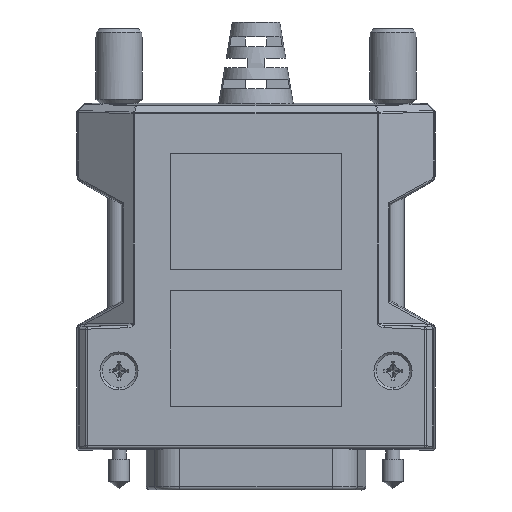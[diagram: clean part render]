
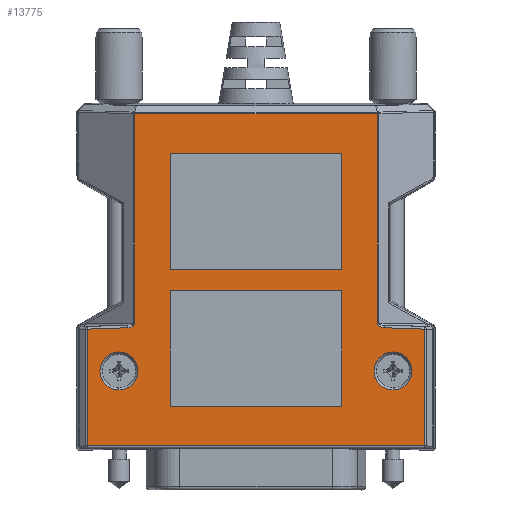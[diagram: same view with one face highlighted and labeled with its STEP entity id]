
A CAD part, front view. The second image highlights one B-rep face of the part: STEP entity #13775.
In plain terms, the highlighted planar face has unit normal (0, -1, 0).
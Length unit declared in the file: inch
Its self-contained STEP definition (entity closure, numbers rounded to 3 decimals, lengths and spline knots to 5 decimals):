
#5413=CARTESIAN_POINT('',(0.9215,-0.094,0.4189));
#5414=DIRECTION('',(0.,1.,0.));
#5415=DIRECTION('',(0.,0.,1.));
#5416=AXIS2_PLACEMENT_3D('',#5413,#5414,#5415);
#5418=CARTESIAN_POINT('',(0.9215,-0.094,0.4189));
#5419=DIRECTION('',(0.,1.,0.));
#5420=DIRECTION('',(0.,0.,-1.));
#5421=AXIS2_PLACEMENT_3D('',#5418,#5419,#5420);
#5423=CARTESIAN_POINT('',(-0.9215,-0.094,0.4189));
#5424=DIRECTION('',(0.,1.,0.));
#5425=DIRECTION('',(0.,0.,-1.));
#5426=AXIS2_PLACEMENT_3D('',#5423,#5424,#5425);
#5428=CARTESIAN_POINT('',(-0.9215,-0.094,0.4189));
#5429=DIRECTION('',(0.,1.,0.));
#5430=DIRECTION('',(0.,0.,1.));
#5431=AXIS2_PLACEMENT_3D('',#5428,#5429,#5430);
#5433=DIRECTION('',(0.,0.,1.));
#5434=VECTOR('',#5433,0.78017);
#5435=CARTESIAN_POINT('',(0.57759,-0.094,0.17981));
#5436=LINE('',#5435,#5434);
#5437=DIRECTION('',(-1.,0.,0.));
#5438=VECTOR('',#5437,1.15517);
#5439=CARTESIAN_POINT('',(0.57759,-0.094,0.95998));
#5440=LINE('',#5439,#5438);
#5441=DIRECTION('',(0.,0.,-1.));
#5442=VECTOR('',#5441,0.78017);
#5443=CARTESIAN_POINT('',(-0.57759,-0.094,0.95998));
#5444=LINE('',#5443,#5442);
#5445=DIRECTION('',(1.,0.,0.));
#5446=VECTOR('',#5445,1.15517);
#5447=CARTESIAN_POINT('',(-0.57759,-0.094,0.17981));
#5448=LINE('',#5447,#5446);
#5449=DIRECTION('',(0.,0.,1.));
#5450=VECTOR('',#5449,0.78017);
#5451=CARTESIAN_POINT('',(0.57759,-0.094,1.10381));
#5452=LINE('',#5451,#5450);
#5453=DIRECTION('',(-1.,0.,0.));
#5454=VECTOR('',#5453,1.15517);
#5455=CARTESIAN_POINT('',(0.57759,-0.094,1.88398));
#5456=LINE('',#5455,#5454);
#5457=DIRECTION('',(0.,0.,-1.));
#5458=VECTOR('',#5457,0.78017);
#5459=CARTESIAN_POINT('',(-0.57759,-0.094,1.88398));
#5460=LINE('',#5459,#5458);
#5461=DIRECTION('',(1.,0.,0.));
#5462=VECTOR('',#5461,1.15517);
#5463=CARTESIAN_POINT('',(-0.57759,-0.094,1.10381));
#5464=LINE('',#5463,#5462);
#5465=CARTESIAN_POINT('',(0.81765,-0.094,
0.74008));
#5466=CARTESIAN_POINT('',(0.81764,-0.094,
0.73775));
#5467=CARTESIAN_POINT('',(0.81846,-0.094,
0.73313));
#5468=CARTESIAN_POINT('',(0.82263,-0.094,
0.72592));
#5469=CARTESIAN_POINT('',(0.82951,-0.094,
0.71962));
#5470=CARTESIAN_POINT('',(0.83868,-0.094,
0.71452));
#5471=CARTESIAN_POINT('',(0.84988,-0.094,
0.71096));
#5472=CARTESIAN_POINT('',(0.85857,-0.094,
0.70972));
#5473=CARTESIAN_POINT('',(0.86323,-0.094,
0.70956));
#5475=CARTESIAN_POINT('',(1.13394,-0.094,0.70016));
#5476=CARTESIAN_POINT('',(1.0437,-0.094,0.70331));
#5477=CARTESIAN_POINT('',(0.95347,-0.094,
0.70641));
#5478=CARTESIAN_POINT('',(0.86323,-0.094,
0.70956));
#5480=DIRECTION('',(0.,0.,1.));
#5481=VECTOR('',#5480,0.78577);
#5482=CARTESIAN_POINT('',(1.13394,-0.094,-0.08562));
#5483=LINE('',#5482,#5481);
#5484=DIRECTION('',(1.,0.,0.));
#5485=VECTOR('',#5484,2.26788);
#5486=CARTESIAN_POINT('',(-1.13394,-0.094,-0.08562));
#5487=LINE('',#5486,#5485);
#5488=DIRECTION('',(0.,0.,-1.));
#5489=VECTOR('',#5488,0.78577);
#5490=CARTESIAN_POINT('',(-1.13394,-0.094,0.70016));
#5491=LINE('',#5490,#5489);
#5492=DIRECTION('',(-0.999,0.,-0.035));
#5493=VECTOR('',#5492,0.27087);
#5494=CARTESIAN_POINT('',(-0.86324,-0.094,
0.70961));
#5495=LINE('',#5494,#5493);
#5496=CARTESIAN_POINT('',(-0.86324,-0.094,
0.70961));
#5497=CARTESIAN_POINT('',(-0.85859,-0.094,
0.70977));
#5498=CARTESIAN_POINT('',(-0.84992,-0.094,
0.71092));
#5499=CARTESIAN_POINT('',(-0.83875,-0.094,
0.7145));
#5500=CARTESIAN_POINT('',(-0.82958,-0.094,
0.71958));
#5501=CARTESIAN_POINT('',(-0.82266,-0.094,
0.72588));
#5502=CARTESIAN_POINT('',(-0.81847,-0.094,
0.73311));
#5503=CARTESIAN_POINT('',(-0.81764,-0.094,
0.73774));
#5504=CARTESIAN_POINT('',(-0.81765,-0.094,
0.74008));
#5506=DIRECTION('',(0.,0.,-1.));
#5507=VECTOR('',#5506,1.4091);
#5508=CARTESIAN_POINT('',(-0.81765,-0.094,2.14918));
#5509=LINE('',#5508,#5507);
#5510=DIRECTION('',(0.845,0.,0.535));
#5511=VECTOR('',#5510,0.00058);
#5512=CARTESIAN_POINT('',(-0.81765,-0.094,2.14918));
#5513=LINE('',#5512,#5511);
#5514=DIRECTION('',(-1.,0.,0.));
#5515=VECTOR('',#5514,1.63431);
#5516=CARTESIAN_POINT('',(0.81716,-0.094,2.14949));
#5517=LINE('',#5516,#5515);
#5518=DIRECTION('',(0.845,0.,-0.535));
#5519=VECTOR('',#5518,0.00058);
#5520=CARTESIAN_POINT('',(0.81716,-0.094,2.14949));
#5521=LINE('',#5520,#5519);
#5522=DIRECTION('',(0.,0.,1.));
#5523=VECTOR('',#5522,1.4091);
#5524=CARTESIAN_POINT('',(0.81765,-0.094,
0.74008));
#5525=LINE('',#5524,#5523);
#12055=CARTESIAN_POINT('',(0.9215,-0.094,0.5469));
#12056=CARTESIAN_POINT('',(0.9215,-0.094,0.2909));
#12057=VERTEX_POINT('',#12055);
#12058=VERTEX_POINT('',#12056);
#12063=CARTESIAN_POINT('',(-0.9215,-0.094,0.2909));
#12064=CARTESIAN_POINT('',(-0.9215,-0.094,0.5469));
#12065=VERTEX_POINT('',#12063);
#12066=VERTEX_POINT('',#12064);
#12252=CARTESIAN_POINT('',(0.57759,-0.094,0.17981));
#12253=CARTESIAN_POINT('',(0.57759,-0.094,0.95998));
#12254=VERTEX_POINT('',#12252);
#12255=VERTEX_POINT('',#12253);
#12256=CARTESIAN_POINT('',(-0.57759,-0.094,0.95998));
#12257=VERTEX_POINT('',#12256);
#12258=CARTESIAN_POINT('',(-0.57759,-0.094,0.17981));
#12259=VERTEX_POINT('',#12258);
#12268=CARTESIAN_POINT('',(0.57759,-0.094,1.10381));
#12269=CARTESIAN_POINT('',(0.57759,-0.094,1.88398));
#12270=VERTEX_POINT('',#12268);
#12271=VERTEX_POINT('',#12269);
#12272=CARTESIAN_POINT('',(-0.57759,-0.094,1.88398));
#12273=VERTEX_POINT('',#12272);
#12274=CARTESIAN_POINT('',(-0.57759,-0.094,1.10381));
#12275=VERTEX_POINT('',#12274);
#13129=CARTESIAN_POINT('',(0.81716,-0.094,2.14949));
#13131=VERTEX_POINT('',#13129);
#13134=CARTESIAN_POINT('',(-0.81716,-0.094,2.14949));
#13136=VERTEX_POINT('',#13134);
#13173=CARTESIAN_POINT('',(0.81765,-0.094,
0.74008));
#13174=CARTESIAN_POINT('',(0.81765,-0.094,2.14918));
#13175=VERTEX_POINT('',#13173);
#13176=VERTEX_POINT('',#13174);
#13177=CARTESIAN_POINT('',(-0.81765,-0.094,2.14918));
#13178=CARTESIAN_POINT('',(-0.81765,-0.094,
0.74008));
#13179=VERTEX_POINT('',#13177);
#13180=VERTEX_POINT('',#13178);
#13195=CARTESIAN_POINT('',(-0.86324,-0.094,
0.70961));
#13196=CARTESIAN_POINT('',(-1.13394,-0.094,0.70016));
#13197=VERTEX_POINT('',#13195);
#13198=VERTEX_POINT('',#13196);
#13199=CARTESIAN_POINT('',(-1.13394,-0.094,-0.08562));
#13200=VERTEX_POINT('',#13199);
#13203=CARTESIAN_POINT('',(1.13394,-0.094,-0.08562));
#13204=VERTEX_POINT('',#13203);
#13209=CARTESIAN_POINT('',(1.13394,-0.094,0.70016));
#13210=VERTEX_POINT('',#13209);
#13229=VERTEX_POINT('',#5478);
#13712=CARTESIAN_POINT('',(0.,-0.094,-0.1001));
#13713=DIRECTION('',(0.,1.,0.));
#13714=DIRECTION('',(1.,0.,0.));
#13715=AXIS2_PLACEMENT_3D('',#13712,#13713,#13714);
#13716=PLANE('',#13715);
#13718=ORIENTED_EDGE('',*,*,#13717,.T.);
#13720=ORIENTED_EDGE('',*,*,#13719,.F.);
#13722=ORIENTED_EDGE('',*,*,#13721,.F.);
#13724=ORIENTED_EDGE('',*,*,#13723,.F.);
#13726=ORIENTED_EDGE('',*,*,#13725,.F.);
#13728=ORIENTED_EDGE('',*,*,#13727,.F.);
#13730=ORIENTED_EDGE('',*,*,#13729,.T.);
#13732=ORIENTED_EDGE('',*,*,#13731,.F.);
#13734=ORIENTED_EDGE('',*,*,#13733,.T.);
#13736=ORIENTED_EDGE('',*,*,#13735,.F.);
#13738=ORIENTED_EDGE('',*,*,#13737,.T.);
#13740=ORIENTED_EDGE('',*,*,#13739,.F.);
#13741=EDGE_LOOP('',(#13718,#13720,#13722,#13724,#13726,#13728,#13730,#13732,
#13734,#13736,#13738,#13740));
#13742=FACE_OUTER_BOUND('',#13741,.F.);
#13744=ORIENTED_EDGE('',*,*,#13743,.F.);
#13746=ORIENTED_EDGE('',*,*,#13745,.F.);
#13747=EDGE_LOOP('',(#13744,#13746));
#13748=FACE_BOUND('',#13747,.F.);
#13750=ORIENTED_EDGE('',*,*,#13749,.T.);
#13752=ORIENTED_EDGE('',*,*,#13751,.T.);
#13754=ORIENTED_EDGE('',*,*,#13753,.T.);
#13756=ORIENTED_EDGE('',*,*,#13755,.T.);
#13757=EDGE_LOOP('',(#13750,#13752,#13754,#13756));
#13758=FACE_BOUND('',#13757,.F.);
#13760=ORIENTED_EDGE('',*,*,#13759,.T.);
#13762=ORIENTED_EDGE('',*,*,#13761,.T.);
#13764=ORIENTED_EDGE('',*,*,#13763,.T.);
#13766=ORIENTED_EDGE('',*,*,#13765,.T.);
#13767=EDGE_LOOP('',(#13760,#13762,#13764,#13766));
#13768=FACE_BOUND('',#13767,.F.);
#13770=ORIENTED_EDGE('',*,*,#13769,.F.);
#13772=ORIENTED_EDGE('',*,*,#13771,.F.);
#13773=EDGE_LOOP('',(#13770,#13772));
#13774=FACE_BOUND('',#13773,.F.);
#13775=ADVANCED_FACE('',(#13742,#13748,#13758,#13768,#13774),#13716,.F.);
#5417=CIRCLE('',#5416,0.128);
#5422=CIRCLE('',#5421,0.128);
#5427=CIRCLE('',#5426,0.128);
#5432=CIRCLE('',#5431,0.128);
#5474=B_SPLINE_CURVE_WITH_KNOTS('',3,(#5465,#5466,#5467,#5468,#5469,#5470,#5471,
#5472,#5473),.UNSPECIFIED.,.F.,.F.,(4,1,1,1,1,1,4),(0.,0.16667,
0.33333,0.5,0.66667,0.83333,1.),
.UNSPECIFIED.);
#5479=B_SPLINE_CURVE_WITH_KNOTS('',3,(#5475,#5476,#5477,#5478),.UNSPECIFIED.,
.F.,.F.,(4,4),(0.,1.),.UNSPECIFIED.);
#5505=B_SPLINE_CURVE_WITH_KNOTS('',3,(#5496,#5497,#5498,#5499,#5500,#5501,#5502,
#5503,#5504),.UNSPECIFIED.,.F.,.F.,(4,1,1,1,1,1,4),(0.,0.16667,
0.33333,0.5,0.66667,0.83333,1.),
.UNSPECIFIED.);
#13717=EDGE_CURVE('',#13175,#13229,#5474,.T.);
#13719=EDGE_CURVE('',#13210,#13229,#5479,.T.);
#13721=EDGE_CURVE('',#13204,#13210,#5483,.T.);
#13723=EDGE_CURVE('',#13200,#13204,#5487,.T.);
#13725=EDGE_CURVE('',#13198,#13200,#5491,.T.);
#13727=EDGE_CURVE('',#13197,#13198,#5495,.T.);
#13729=EDGE_CURVE('',#13197,#13180,#5505,.T.);
#13731=EDGE_CURVE('',#13179,#13180,#5509,.T.);
#13733=EDGE_CURVE('',#13179,#13136,#5513,.T.);
#13735=EDGE_CURVE('',#13131,#13136,#5517,.T.);
#13737=EDGE_CURVE('',#13131,#13176,#5521,.T.);
#13739=EDGE_CURVE('',#13175,#13176,#5525,.T.);
#13743=EDGE_CURVE('',#12065,#12066,#5427,.T.);
#13745=EDGE_CURVE('',#12066,#12065,#5432,.T.);
#13749=EDGE_CURVE('',#12254,#12255,#5436,.T.);
#13751=EDGE_CURVE('',#12255,#12257,#5440,.T.);
#13753=EDGE_CURVE('',#12257,#12259,#5444,.T.);
#13755=EDGE_CURVE('',#12259,#12254,#5448,.T.);
#13759=EDGE_CURVE('',#12270,#12271,#5452,.T.);
#13761=EDGE_CURVE('',#12271,#12273,#5456,.T.);
#13763=EDGE_CURVE('',#12273,#12275,#5460,.T.);
#13765=EDGE_CURVE('',#12275,#12270,#5464,.T.);
#13769=EDGE_CURVE('',#12057,#12058,#5417,.T.);
#13771=EDGE_CURVE('',#12058,#12057,#5422,.T.);
